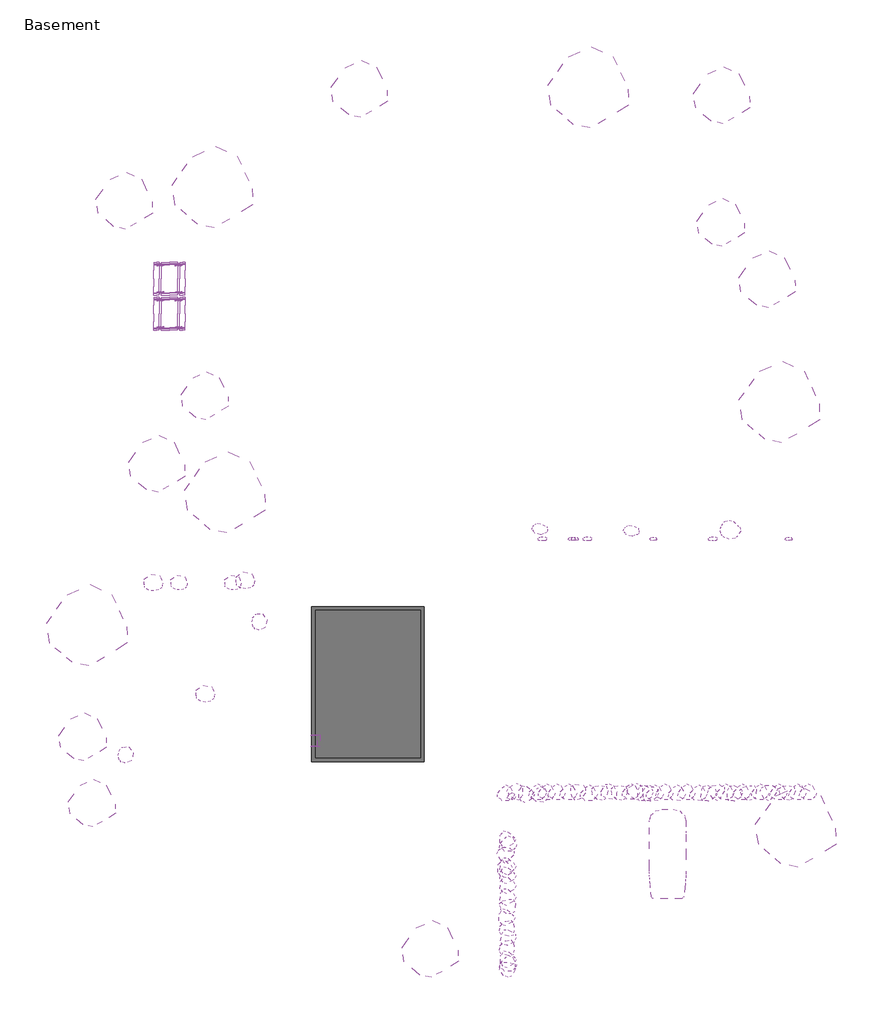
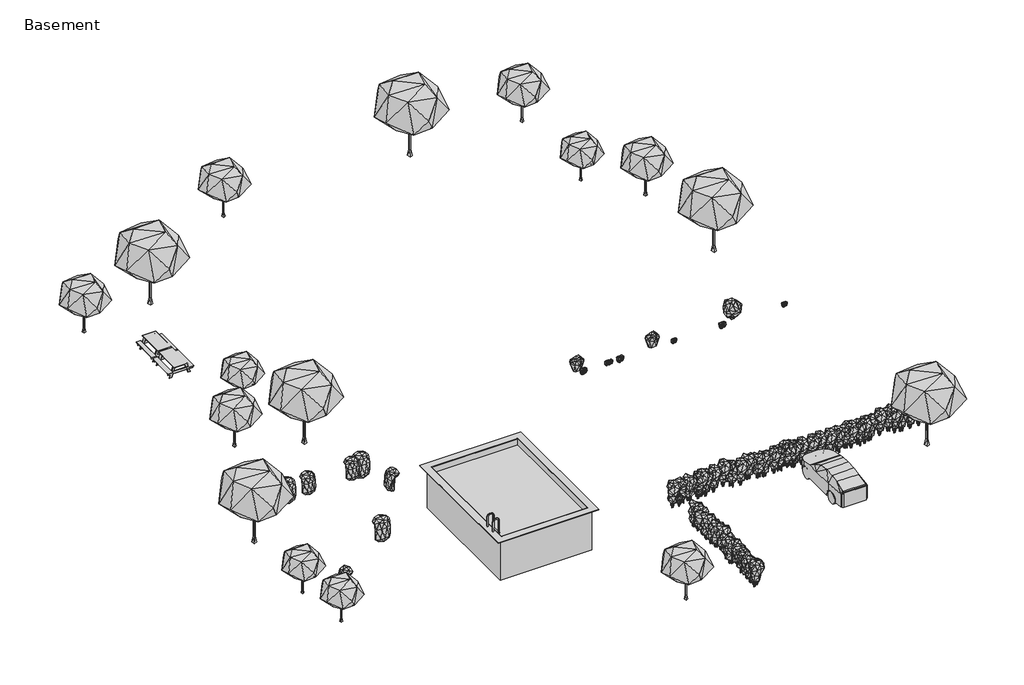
# One storey: 88 geographic elements, 1 proxy.
"""IFC4 building model written with IfcOpenShell, lengths in millimetres."""

from ifc_helpers import new_model, si_unit, origin, place, context, project, spatial, transform, mapped, element, save
from components import generic_models_12_generic_models_12_64fc7767, geographic_element_212cce61, geographic_element_7e77056d, geographic_element_bd739b93, geographic_element_0aab1bf5, geographic_element_827b0157, enscape_assetdefinition_bamboo_003_cane_group_enscape_e3d7d0c9, enscape_assetdefinition_bamboo_003_cane_group_enscape_a26ff348, enscape_assetdefinition_bush_025_fern_enscape_c4f5b710, enscape_assetdefinition_car_021_enscape_assetdefinition_car_290f43b4, enscape_assetdefinition_deciduous_tree_099_tree_enscape_4ca26ea1, enscape_assetdefinition_deciduous_tree_099_tree_enscape_438e4a8d, enscape_assetdefinition_deciduous_tree_099_tree_enscape_5098c912, enscape_assetdefinition_picnic_table_001_enscape_42751bdf, enscape_assetdefinition_pool_ladder_002_enscape_78e63e01

model = new_model("IFC4")

# Units and contexts
model_context = context("Model", 3, world=origin())
ifc_project = project(units=[si_unit("LENGTHUNIT", "METRE", prefix="MILLI")], contexts=[model_context])

# Site, building, storey
site = spatial("IfcSite", under=ifc_project)
building = spatial("IfcBuilding", under=site)
storey = spatial("IfcBuildingStorey", under=building, Name="Basement", Elevation=-2800.0)

# Proxy
placement = place(None, origin())
generic_models_12_generic_models_12_shape = generic_models_12_generic_models_12_64fc7767(model_context)
element("IfcBuildingElementProxy", 1, Name="Generic Models 12 : Generic Models 12", ObjectType="Generic Models 12 : Generic Models 12", at=placement, inside=storey, context=model_context, shape_type="MappedRepresentation", body=[
    mapped(generic_models_12_generic_models_12_shape, transform((0.0, 0.0, 0.0), x_axis=(1.0, 0.0, 0.0), y_axis=(0.0, 1.0, 0.0), z_axis=(0.0, 0.0, 1.0))),
])

# Geographic elements
geographic_element_shape = geographic_element_212cce61(model_context)
element("IfcGeographicElement", 2, ObjectType="Enscape AssetDefinition - Creeper Plant 001 Bower Vine : Enscape AssetDefinition - Creeper Plant 001 Bower Vine 2", at=placement, inside=storey, context=model_context, shape_type="MappedRepresentation", body=[
    mapped(geographic_element_shape, transform((685.5337784, -11698.4130328, 950.0), x_axis=(1.0, 0.0, 0.0), y_axis=(0.0, 1.0, 0.0), z_axis=(0.0, 0.0, 1.0))),
])
element("IfcGeographicElement", 3, ObjectType="Enscape AssetDefinition - Creeper Plant 001 Bower Vine : Enscape AssetDefinition - Creeper Plant 001 Bower Vine 2", at=placement, inside=storey, context=model_context, shape_type="MappedRepresentation", body=[
    mapped(geographic_element_shape, transform((2854.1061358, -5558.2564752, 950.0), x_axis=(1.0, 0.0, 0.0), y_axis=(0.0, 1.0, 0.0), z_axis=(0.0, 0.0, 1.0))),
])
element("IfcGeographicElement", 4, ObjectType="Enscape AssetDefinition - Creeper Plant 001 Bower Vine : Enscape AssetDefinition - Creeper Plant 001 Bower Vine 2", at=placement, inside=storey, context=model_context, shape_type="MappedRepresentation", body=[
    mapped(geographic_element_shape, transform((-2134.4662216, -5678.2564752, 950.0), x_axis=(1.0, 0.0, 0.0), y_axis=(0.0, 1.0, 0.0), z_axis=(0.0, 0.0, 1.0))),
])
geographic_element_2_shape = geographic_element_7e77056d(model_context)
element("IfcGeographicElement", 5, ObjectType="Enscape AssetDefinition - Creeper Plant 015 Bower Vine : Enscape AssetDefinition - Creeper Plant 015 Bower Vine 2", at=placement, inside=storey, context=model_context, shape_type="MappedRepresentation", body=[
    mapped(geographic_element_2_shape, transform((2182.6806272, -5678.2564752, 950.0), x_axis=(1.0, 0.0, 0.0), y_axis=(0.0, 1.0, 0.0), z_axis=(0.0, 0.0, 1.0))),
])
element("IfcGeographicElement", 6, ObjectType="Enscape AssetDefinition - Creeper Plant 015 Bower Vine : Enscape AssetDefinition - Creeper Plant 015 Bower Vine 2", at=placement, inside=storey, context=model_context, shape_type="MappedRepresentation", body=[
    mapped(geographic_element_2_shape, transform((-741.7932683, -5678.2564752, 950.0), x_axis=(1.0, 0.0, 0.0), y_axis=(0.0, 1.0, 0.0), z_axis=(0.0, 0.0, 1.0))),
])
element("IfcGeographicElement", 7, ObjectType="Enscape AssetDefinition - Creeper Plant 015 Bower Vine : Enscape AssetDefinition - Creeper Plant 015 Bower Vine 2", at=placement, inside=storey, context=model_context, shape_type="MappedRepresentation", body=[
    mapped(geographic_element_2_shape, transform((-3656.8662216, -15011.5231747, 950.0), x_axis=(0.0, -1.0, 0.0), y_axis=(1.0, 0.0, 0.0), z_axis=(0.0, 0.0, 1.0))),
])
element("IfcGeographicElement", 8, ObjectType="Enscape AssetDefinition - Creeper Plant 015 Bower Vine : Enscape AssetDefinition - Creeper Plant 015 Bower Vine 2", at=placement, inside=storey, context=model_context, shape_type="MappedRepresentation", body=[
    mapped(geographic_element_2_shape, transform((3593.1337784, -7798.2564752, 950.0), x_axis=(0.0, -1.0, 0.0), y_axis=(1.0, 0.0, 0.0), z_axis=(0.0, 0.0, 1.0))),
])
geographic_element_3_shape = geographic_element_bd739b93(model_context)
element("IfcGeographicElement", 9, ObjectType="Enscape AssetDefinition - Bush 132 Rose of Sharon : Enscape AssetDefinition - Bush 132 Rose of Sharon", at=placement, inside=storey, context=model_context, shape_type="MappedRepresentation", body=[
    mapped(geographic_element_3_shape, transform((29103.1337784, -2776.8168145, 0.0), x_axis=(1.0, 0.0, 0.0), y_axis=(0.0, 1.0, 0.0), z_axis=(0.0, 0.0, 1.0))),
])
geographic_element_4_shape = geographic_element_0aab1bf5(model_context)
element("IfcGeographicElement", 10, ObjectType="Enscape AssetDefinition - Creeper Plant 031 Bower Vine : Enscape AssetDefinition - Creeper Plant 031 Bower Vine 2", at=placement, inside=storey, context=model_context, shape_type="MappedRepresentation", body=[
    mapped(geographic_element_4_shape, transform((18948.1337784, -3306.9781298, 220.0), x_axis=(1.0, 0.0, 0.0), y_axis=(0.0, 1.0, 0.0), z_axis=(0.0, 0.0, 1.0))),
])
element("IfcGeographicElement", 11, ObjectType="Enscape AssetDefinition - Creeper Plant 031 Bower Vine : Enscape AssetDefinition - Creeper Plant 031 Bower Vine 2", at=placement, inside=storey, context=model_context, shape_type="MappedRepresentation", body=[
    mapped(geographic_element_4_shape, transform((21388.1337784, -3306.9781298, 220.0), x_axis=(1.0, 0.0, 0.0), y_axis=(0.0, 1.0, 0.0), z_axis=(0.0, 0.0, 1.0))),
])
element("IfcGeographicElement", 12, ObjectType="Enscape AssetDefinition - Creeper Plant 031 Bower Vine : Enscape AssetDefinition - Creeper Plant 031 Bower Vine 2", at=placement, inside=storey, context=model_context, shape_type="MappedRepresentation", body=[
    mapped(geographic_element_4_shape, transform((28188.1337784, -3306.9781298, 220.0), x_axis=(1.0, 0.0, 0.0), y_axis=(0.0, 1.0, 0.0), z_axis=(0.0, 0.0, 1.0))),
])
geographic_element_5_shape = geographic_element_827b0157(model_context)
element("IfcGeographicElement", 13, ObjectType="Enscape AssetDefinition - Creeper Plant 031 Bower Vine : Enscape AssetDefinition - Creeper Plant 031 Bower Vine 3", at=placement, inside=storey, context=model_context, shape_type="MappedRepresentation", body=[
    mapped(geographic_element_5_shape, transform((24968.1337784, -3306.9781298, 220.0), x_axis=(1.0, 0.0, 0.0), y_axis=(0.0, 1.0, 0.0), z_axis=(0.0, 0.0, 1.0))),
])
element("IfcGeographicElement", 14, ObjectType="Enscape AssetDefinition - Creeper Plant 031 Bower Vine : Enscape AssetDefinition - Creeper Plant 031 Bower Vine 3", at=placement, inside=storey, context=model_context, shape_type="MappedRepresentation", body=[
    mapped(geographic_element_5_shape, transform((32308.1337784, -3306.9781298, 220.0), x_axis=(1.0, 0.0, 0.0), y_axis=(0.0, 1.0, 0.0), z_axis=(0.0, 0.0, 1.0))),
])
element("IfcGeographicElement", 15, ObjectType="Enscape AssetDefinition - Creeper Plant 031 Bower Vine : Enscape AssetDefinition - Creeper Plant 031 Bower Vine 3", at=placement, inside=storey, context=model_context, shape_type="MappedRepresentation", body=[
    mapped(geographic_element_5_shape, transform((20548.1337784, -3306.9781298, 220.0), x_axis=(1.0, 0.0, 0.0), y_axis=(0.0, 1.0, 0.0), z_axis=(0.0, 0.0, 1.0))),
])
element("IfcGeographicElement", 16, ObjectType="Enscape AssetDefinition - Creeper Plant 031 Bower Vine : Enscape AssetDefinition - Creeper Plant 031 Bower Vine 3", at=placement, inside=storey, context=model_context, shape_type="MappedRepresentation", body=[
    mapped(geographic_element_5_shape, transform((20708.1337784, -3306.9781298, 220.0), x_axis=(1.0, 0.0, 0.0), y_axis=(0.0, 1.0, 0.0), z_axis=(0.0, 0.0, 1.0))),
])
enscape_assetdefinition_bamboo_003_cane_group_enscape_shape = enscape_assetdefinition_bamboo_003_cane_group_enscape_e3d7d0c9(model_context)
element("IfcGeographicElement", 17, ObjectType="Enscape AssetDefinition - Bamboo 003 Cane Group : Enscape AssetDefinition - Bamboo 003 Cane Group", at=placement, inside=storey, context=model_context, shape_type="MappedRepresentation", body=[
    mapped(enscape_assetdefinition_bamboo_003_cane_group_enscape_shape, transform((33282.8282298, -17059.8480259, -268.081106), x_axis=(1.0, 0.0, 0.0), y_axis=(0.0, 1.0, 0.0), z_axis=(0.0, 0.0, 1.0))),
])
element("IfcGeographicElement", 18, ObjectType="Enscape AssetDefinition - Bamboo 003 Cane Group : Enscape AssetDefinition - Bamboo 003 Cane Group", at=placement, inside=storey, context=model_context, shape_type="MappedRepresentation", body=[
    mapped(enscape_assetdefinition_bamboo_003_cane_group_enscape_shape, transform((31680.7576077, -17059.8480259, -209.1870688), x_axis=(1.0, 0.0, 0.0), y_axis=(0.0, 1.0, 0.0), z_axis=(0.0, 0.0, 1.0))),
])
element("IfcGeographicElement", 19, ObjectType="Enscape AssetDefinition - Bamboo 003 Cane Group : Enscape AssetDefinition - Bamboo 003 Cane Group", at=placement, inside=storey, context=model_context, shape_type="MappedRepresentation", body=[
    mapped(enscape_assetdefinition_bamboo_003_cane_group_enscape_shape, transform((31292.375186, -17001.6478489, -50.7387016), x_axis=(-1.0, 0.0, 0.0), y_axis=(0.0, -1.0, 0.0), z_axis=(0.0, 0.0, 1.0))),
])
element("IfcGeographicElement", 20, ObjectType="Enscape AssetDefinition - Bamboo 003 Cane Group : Enscape AssetDefinition - Bamboo 003 Cane Group", at=placement, inside=storey, context=model_context, shape_type="MappedRepresentation", body=[
    mapped(enscape_assetdefinition_bamboo_003_cane_group_enscape_shape, transform((30686.0291039, -17059.8480259, -50.7387016), x_axis=(1.0, 0.0, 0.0), y_axis=(0.0, 1.0, 0.0), z_axis=(0.0, 0.0, 1.0))),
])
element("IfcGeographicElement", 21, ObjectType="Enscape AssetDefinition - Bamboo 003 Cane Group : Enscape AssetDefinition - Bamboo 003 Cane Group", at=placement, inside=storey, context=model_context, shape_type="MappedRepresentation", body=[
    mapped(enscape_assetdefinition_bamboo_003_cane_group_enscape_shape, transform((32708.9263914, -17059.8480259, -261.7786402), x_axis=(1.0, 0.0, 0.0), y_axis=(0.0, 1.0, 0.0), z_axis=(0.0, 0.0, 1.0))),
])
element("IfcGeographicElement", 22, ObjectType="Enscape AssetDefinition - Bamboo 003 Cane Group : Enscape AssetDefinition - Bamboo 003 Cane Group", at=placement, inside=storey, context=model_context, shape_type="MappedRepresentation", body=[
    mapped(enscape_assetdefinition_bamboo_003_cane_group_enscape_shape, transform((32171.3733154, -16993.0747976, -355.46213), x_axis=(0.7071067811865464, -0.7071067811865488, 0.0), y_axis=(0.7071067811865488, 0.7071067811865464, 0.0), z_axis=(0.0, 0.0, 1.0))),
])
element("IfcGeographicElement", 23, ObjectType="Enscape AssetDefinition - Bamboo 003 Cane Group : Enscape AssetDefinition - Bamboo 003 Cane Group", at=placement, inside=storey, context=model_context, shape_type="MappedRepresentation", body=[
    mapped(enscape_assetdefinition_bamboo_003_cane_group_enscape_shape, transform((29688.9263914, -17059.8480259, -261.7786402), x_axis=(1.0, 0.0, 0.0), y_axis=(0.0, 1.0, 0.0), z_axis=(0.0, 0.0, 1.0))),
])
element("IfcGeographicElement", 24, ObjectType="Enscape AssetDefinition - Bamboo 003 Cane Group : Enscape AssetDefinition - Bamboo 003 Cane Group", at=placement, inside=storey, context=model_context, shape_type="MappedRepresentation", body=[
    mapped(enscape_assetdefinition_bamboo_003_cane_group_enscape_shape, transform((29298.9655663, -17139.7336169, -261.7786402), x_axis=(0.8290375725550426, 0.5591929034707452, 0.0), y_axis=(-0.5591929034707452, 0.8290375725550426, 0.0), z_axis=(0.0, 0.0, 1.0))),
])
element("IfcGeographicElement", 25, ObjectType="Enscape AssetDefinition - Bamboo 003 Cane Group : Enscape AssetDefinition - Bamboo 003 Cane Group", at=placement, inside=storey, context=model_context, shape_type="MappedRepresentation", body=[
    mapped(enscape_assetdefinition_bamboo_003_cane_group_enscape_shape, transform((28457.2789, -16975.5998121, -261.7786402), x_axis=(-0.9876883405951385, -0.15643446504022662, 0.0), y_axis=(0.15643446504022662, -0.9876883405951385, 0.0), z_axis=(0.0, 0.0, 1.0))),
])
element("IfcGeographicElement", 26, ObjectType="Enscape AssetDefinition - Bamboo 003 Cane Group : Enscape AssetDefinition - Bamboo 003 Cane Group", at=placement, inside=storey, context=model_context, shape_type="MappedRepresentation", body=[
    mapped(enscape_assetdefinition_bamboo_003_cane_group_enscape_shape, transform((27331.8039453, -17112.4968757, -261.7786402), x_axis=(1.0, 0.0, 0.0), y_axis=(0.0, 1.0, 0.0), z_axis=(0.0, 0.0, 1.0))),
])
element("IfcGeographicElement", 27, ObjectType="Enscape AssetDefinition - Bamboo 003 Cane Group : Enscape AssetDefinition - Bamboo 003 Cane Group", at=placement, inside=storey, context=model_context, shape_type="MappedRepresentation", body=[
    mapped(enscape_assetdefinition_bamboo_003_cane_group_enscape_shape, transform((26171.8039453, -17112.4968757, -261.7786402), x_axis=(1.0, 0.0, 0.0), y_axis=(0.0, 1.0, 0.0), z_axis=(0.0, 0.0, 1.0))),
])
element("IfcGeographicElement", 28, ObjectType="Enscape AssetDefinition - Bamboo 003 Cane Group : Enscape AssetDefinition - Bamboo 003 Cane Group", at=placement, inside=storey, context=model_context, shape_type="MappedRepresentation", body=[
    mapped(enscape_assetdefinition_bamboo_003_cane_group_enscape_shape, transform((24971.8039453, -17112.4968757, -261.7786402), x_axis=(1.0, 0.0, 0.0), y_axis=(0.0, 1.0, 0.0), z_axis=(0.0, 0.0, 1.0))),
])
element("IfcGeographicElement", 29, ObjectType="Enscape AssetDefinition - Bamboo 003 Cane Group : Enscape AssetDefinition - Bamboo 003 Cane Group", at=placement, inside=storey, context=model_context, shape_type="MappedRepresentation", body=[
    mapped(enscape_assetdefinition_bamboo_003_cane_group_enscape_shape, transform((23673.5855501, -17044.4601326, -261.7786402), x_axis=(1.0, 0.0, 0.0), y_axis=(0.0, 1.0, 0.0), z_axis=(0.0, 0.0, 1.0))),
])
element("IfcGeographicElement", 30, ObjectType="Enscape AssetDefinition - Bamboo 003 Cane Group : Enscape AssetDefinition - Bamboo 003 Cane Group", at=placement, inside=storey, context=model_context, shape_type="MappedRepresentation", body=[
    mapped(enscape_assetdefinition_bamboo_003_cane_group_enscape_shape, transform((21396.9283537, -17118.4834862, -261.7786402), x_axis=(1.0, 0.0, 0.0), y_axis=(0.0, 1.0, 0.0), z_axis=(0.0, 0.0, 1.0))),
])
element("IfcGeographicElement", 31, ObjectType="Enscape AssetDefinition - Bamboo 003 Cane Group : Enscape AssetDefinition - Bamboo 003 Cane Group", at=placement, inside=storey, context=model_context, shape_type="MappedRepresentation", body=[
    mapped(enscape_assetdefinition_bamboo_003_cane_group_enscape_shape, transform((20833.7985572, -17059.8480259, -261.7786402), x_axis=(0.6018150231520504, 0.7986355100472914, 0.0), y_axis=(-0.7986355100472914, 0.6018150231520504, 0.0), z_axis=(0.0, 0.0, 1.0))),
])
element("IfcGeographicElement", 32, ObjectType="Enscape AssetDefinition - Bamboo 003 Cane Group : Enscape AssetDefinition - Bamboo 003 Cane Group", at=placement, inside=storey, context=model_context, shape_type="MappedRepresentation", body=[
    mapped(enscape_assetdefinition_bamboo_003_cane_group_enscape_shape, transform((20293.1337784, -17059.8480259, 0.0), x_axis=(1.0, 0.0, 0.0), y_axis=(0.0, 1.0, 0.0), z_axis=(0.0, 0.0, 1.0))),
])
element("IfcGeographicElement", 33, ObjectType="Enscape AssetDefinition - Bamboo 003 Cane Group : Enscape AssetDefinition - Bamboo 003 Cane Group", at=placement, inside=storey, context=model_context, shape_type="MappedRepresentation", body=[
    mapped(enscape_assetdefinition_bamboo_003_cane_group_enscape_shape, transform((19653.1337784, -17059.8480259, -172.0395258), x_axis=(1.0, 0.0, 0.0), y_axis=(0.0, 1.0, 0.0), z_axis=(0.0, 0.0, 1.0))),
])
element("IfcGeographicElement", 34, ObjectType="Enscape AssetDefinition - Bamboo 003 Cane Group : Enscape AssetDefinition - Bamboo 003 Cane Group", at=placement, inside=storey, context=model_context, shape_type="MappedRepresentation", body=[
    mapped(enscape_assetdefinition_bamboo_003_cane_group_enscape_shape, transform((16895.4241879, -17118.4834862, -261.7786402), x_axis=(1.0, 0.0, 0.0), y_axis=(0.0, 1.0, 0.0), z_axis=(0.0, 0.0, 1.0))),
])
element("IfcGeographicElement", 35, ObjectType="Enscape AssetDefinition - Bamboo 003 Cane Group : Enscape AssetDefinition - Bamboo 003 Cane Group", at=placement, inside=storey, context=model_context, shape_type="MappedRepresentation", body=[
    mapped(enscape_assetdefinition_bamboo_003_cane_group_enscape_shape, transform((18757.0941135, -17192.078512, -81.628826), x_axis=(1.0, 0.0, 0.0), y_axis=(0.0, 1.0, 0.0), z_axis=(0.0, 0.0, 1.0))),
])
element("IfcGeographicElement", 36, ObjectType="Enscape AssetDefinition - Bamboo 003 Cane Group : Enscape AssetDefinition - Bamboo 003 Cane Group", at=placement, inside=storey, context=model_context, shape_type="MappedRepresentation", body=[
    mapped(enscape_assetdefinition_bamboo_003_cane_group_enscape_shape, transform((30077.9142827, -17007.6759344, -268.081106), x_axis=(0.809016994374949, -0.5877852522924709, 0.0), y_axis=(0.5877852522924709, 0.809016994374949, 0.0), z_axis=(0.0, 0.0, 1.0))),
])
element("IfcGeographicElement", 37, ObjectType="Enscape AssetDefinition - Bamboo 003 Cane Group : Enscape AssetDefinition - Bamboo 003 Cane Group", at=placement, inside=storey, context=model_context, shape_type="MappedRepresentation", body=[
    mapped(enscape_assetdefinition_bamboo_003_cane_group_enscape_shape, transform((28802.2344827, -17059.8480259, -268.081106), x_axis=(1.0, 0.0, 0.0), y_axis=(0.0, 1.0, 0.0), z_axis=(0.0, 0.0, 1.0))),
])
element("IfcGeographicElement", 38, ObjectType="Enscape AssetDefinition - Bamboo 003 Cane Group : Enscape AssetDefinition - Bamboo 003 Cane Group", at=placement, inside=storey, context=model_context, shape_type="MappedRepresentation", body=[
    mapped(enscape_assetdefinition_bamboo_003_cane_group_enscape_shape, transform((25502.2344827, -17059.8480259, -268.081106), x_axis=(1.0, 0.0, 0.0), y_axis=(0.0, 1.0, 0.0), z_axis=(0.0, 0.0, 1.0))),
])
element("IfcGeographicElement", 39, ObjectType="Enscape AssetDefinition - Bamboo 003 Cane Group : Enscape AssetDefinition - Bamboo 003 Cane Group", at=placement, inside=storey, context=model_context, shape_type="MappedRepresentation", body=[
    mapped(enscape_assetdefinition_bamboo_003_cane_group_enscape_shape, transform((26702.2344827, -17059.8480259, -268.081106), x_axis=(1.0, 0.0, 0.0), y_axis=(0.0, 1.0, 0.0), z_axis=(0.0, 0.0, 1.0))),
])
element("IfcGeographicElement", 40, ObjectType="Enscape AssetDefinition - Bamboo 003 Cane Group : Enscape AssetDefinition - Bamboo 003 Cane Group", at=placement, inside=storey, context=model_context, shape_type="MappedRepresentation", body=[
    mapped(enscape_assetdefinition_bamboo_003_cane_group_enscape_shape, transform((17514.9251972, -17059.8480259, -268.081106), x_axis=(0.0, 1.0, 0.0), y_axis=(-1.0, 0.0, 0.0), z_axis=(0.0, 0.0, 1.0))),
])
element("IfcGeographicElement", 41, ObjectType="Enscape AssetDefinition - Bamboo 003 Cane Group : Enscape AssetDefinition - Bamboo 003 Cane Group", at=placement, inside=storey, context=model_context, shape_type="MappedRepresentation", body=[
    mapped(enscape_assetdefinition_bamboo_003_cane_group_enscape_shape, transform((18031.2049435, -17059.8480259, -268.081106), x_axis=(0.0, -1.0, 0.0), y_axis=(1.0, 0.0, 0.0), z_axis=(0.0, 0.0, 1.0))),
])
element("IfcGeographicElement", 42, ObjectType="Enscape AssetDefinition - Bamboo 003 Cane Group : Enscape AssetDefinition - Bamboo 003 Cane Group", at=placement, inside=storey, context=model_context, shape_type="MappedRepresentation", body=[
    mapped(enscape_assetdefinition_bamboo_003_cane_group_enscape_shape, transform((18614.9251972, -17059.8480259, -268.081106), x_axis=(1.0, 0.0, 0.0), y_axis=(0.0, 1.0, 0.0), z_axis=(0.0, 0.0, 1.0))),
])
element("IfcGeographicElement", 43, ObjectType="Enscape AssetDefinition - Bamboo 003 Cane Group : Enscape AssetDefinition - Bamboo 003 Cane Group", at=placement, inside=storey, context=model_context, shape_type="MappedRepresentation", body=[
    mapped(enscape_assetdefinition_bamboo_003_cane_group_enscape_shape, transform((19114.9251972, -17059.8480259, -268.081106), x_axis=(1.0, 0.0, 0.0), y_axis=(0.0, 1.0, 0.0), z_axis=(0.0, 0.0, 1.0))),
])
element("IfcGeographicElement", 44, ObjectType="Enscape AssetDefinition - Bamboo 003 Cane Group : Enscape AssetDefinition - Bamboo 003 Cane Group", at=placement, inside=storey, context=model_context, shape_type="MappedRepresentation", body=[
    mapped(enscape_assetdefinition_bamboo_003_cane_group_enscape_shape, transform((22611.7596897, -17059.8480259, -268.081106), x_axis=(-0.4999999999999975, 0.8660254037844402, 0.0), y_axis=(-0.8660254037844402, -0.4999999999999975, 0.0), z_axis=(0.0, 0.0, 1.0))),
])
element("IfcGeographicElement", 45, ObjectType="Enscape AssetDefinition - Bamboo 003 Cane Group : Enscape AssetDefinition - Bamboo 003 Cane Group", at=placement, inside=storey, context=model_context, shape_type="MappedRepresentation", body=[
    mapped(enscape_assetdefinition_bamboo_003_cane_group_enscape_shape, transform((24014.9251972, -17059.8480259, -268.081106), x_axis=(0.0, 1.0, 0.0), y_axis=(-1.0, 0.0, 0.0), z_axis=(0.0, 0.0, 1.0))),
])
element("IfcGeographicElement", 46, ObjectType="Enscape AssetDefinition - Bamboo 003 Cane Group : Enscape AssetDefinition - Bamboo 003 Cane Group", at=placement, inside=storey, context=model_context, shape_type="MappedRepresentation", body=[
    mapped(enscape_assetdefinition_bamboo_003_cane_group_enscape_shape, transform((27878.9655663, -17139.7336169, -261.7786402), x_axis=(0.8290375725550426, 0.5591929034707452, 0.0), y_axis=(-0.5591929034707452, 0.8290375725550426, 0.0), z_axis=(0.0, 0.0, 1.0))),
])
element("IfcGeographicElement", 47, ObjectType="Enscape AssetDefinition - Bamboo 003 Cane Group : Enscape AssetDefinition - Bamboo 003 Cane Group", at=placement, inside=storey, context=model_context, shape_type="MappedRepresentation", body=[
    mapped(enscape_assetdefinition_bamboo_003_cane_group_enscape_shape, transform((24743.1337784, -17139.7336169, -152.4090945), x_axis=(0.8290375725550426, 0.5591929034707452, 0.0), y_axis=(-0.5591929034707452, 0.8290375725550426, 0.0), z_axis=(0.0, 0.0, 1.0))),
])
element("IfcGeographicElement", 48, ObjectType="Enscape AssetDefinition - Bamboo 003 Cane Group : Enscape AssetDefinition - Bamboo 003 Cane Group", at=placement, inside=storey, context=model_context, shape_type="MappedRepresentation", body=[
    mapped(enscape_assetdefinition_bamboo_003_cane_group_enscape_shape, transform((24447.670953, -17128.1491789, -81.628826), x_axis=(0.8290375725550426, 0.5591929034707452, 0.0), y_axis=(-0.5591929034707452, 0.8290375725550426, 0.0), z_axis=(0.0, 0.0, 1.0))),
])
element("IfcGeographicElement", 49, ObjectType="Enscape AssetDefinition - Bamboo 003 Cane Group : Enscape AssetDefinition - Bamboo 003 Cane Group", at=placement, inside=storey, context=model_context, shape_type="MappedRepresentation", body=[
    mapped(enscape_assetdefinition_bamboo_003_cane_group_enscape_shape, transform((23071.3733154, -16993.0747976, -355.46213), x_axis=(0.7071067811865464, -0.7071067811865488, 0.0), y_axis=(0.7071067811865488, 0.7071067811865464, 0.0), z_axis=(0.0, 0.0, 1.0))),
])
element("IfcGeographicElement", 50, ObjectType="Enscape AssetDefinition - Bamboo 003 Cane Group : Enscape AssetDefinition - Bamboo 003 Cane Group", at=placement, inside=storey, context=model_context, shape_type="MappedRepresentation", body=[
    mapped(enscape_assetdefinition_bamboo_003_cane_group_enscape_shape, transform((22014.2661283, -16993.0747976, -175.3123159), x_axis=(0.7071067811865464, -0.7071067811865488, 0.0), y_axis=(0.7071067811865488, 0.7071067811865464, 0.0), z_axis=(0.0, 0.0, 1.0))),
])
element("IfcGeographicElement", 51, ObjectType="Enscape AssetDefinition - Bamboo 003 Cane Group : Enscape AssetDefinition - Bamboo 003 Cane Group", at=placement, inside=storey, context=model_context, shape_type="MappedRepresentation", body=[
    mapped(enscape_assetdefinition_bamboo_003_cane_group_enscape_shape, transform((17037.8427147, -26016.5399051, -261.7786402), x_axis=(0.0, -1.0, 0.0), y_axis=(1.0, 0.0, 0.0), z_axis=(0.0, 0.0, 1.0))),
])
element("IfcGeographicElement", 52, ObjectType="Enscape AssetDefinition - Bamboo 003 Cane Group : Enscape AssetDefinition - Bamboo 003 Cane Group", at=placement, inside=storey, context=model_context, shape_type="MappedRepresentation", body=[
    mapped(enscape_assetdefinition_bamboo_003_cane_group_enscape_shape, transform((16963.8193612, -23739.8827087, -261.7786402), x_axis=(0.0, -1.0, 0.0), y_axis=(1.0, 0.0, 0.0), z_axis=(0.0, 0.0, 1.0))),
])
element("IfcGeographicElement", 53, ObjectType="Enscape AssetDefinition - Bamboo 003 Cane Group : Enscape AssetDefinition - Bamboo 003 Cane Group", at=placement, inside=storey, context=model_context, shape_type="MappedRepresentation", body=[
    mapped(enscape_assetdefinition_bamboo_003_cane_group_enscape_shape, transform((17022.4548215, -23176.7529122, -261.7786402), x_axis=(0.7986355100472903, -0.6018150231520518, 0.0), y_axis=(0.6018150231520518, 0.7986355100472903, 0.0), z_axis=(0.0, 0.0, 1.0))),
])
element("IfcGeographicElement", 54, ObjectType="Enscape AssetDefinition - Bamboo 003 Cane Group : Enscape AssetDefinition - Bamboo 003 Cane Group", at=placement, inside=storey, context=model_context, shape_type="MappedRepresentation", body=[
    mapped(enscape_assetdefinition_bamboo_003_cane_group_enscape_shape, transform((17022.4548215, -22636.0881333, 0.0), x_axis=(0.0, -1.0, 0.0), y_axis=(1.0, 0.0, 0.0), z_axis=(0.0, 0.0, 1.0))),
])
element("IfcGeographicElement", 55, ObjectType="Enscape AssetDefinition - Bamboo 003 Cane Group : Enscape AssetDefinition - Bamboo 003 Cane Group", at=placement, inside=storey, context=model_context, shape_type="MappedRepresentation", body=[
    mapped(enscape_assetdefinition_bamboo_003_cane_group_enscape_shape, transform((17022.4548215, -21996.0881333, -172.0395258), x_axis=(0.0, -1.0, 0.0), y_axis=(1.0, 0.0, 0.0), z_axis=(0.0, 0.0, 1.0))),
])
element("IfcGeographicElement", 56, ObjectType="Enscape AssetDefinition - Bamboo 003 Cane Group : Enscape AssetDefinition - Bamboo 003 Cane Group", at=placement, inside=storey, context=model_context, shape_type="MappedRepresentation", body=[
    mapped(enscape_assetdefinition_bamboo_003_cane_group_enscape_shape, transform((17006.5159001, -19508.789956, -261.7786402), x_axis=(0.0, -1.0, 0.0), y_axis=(1.0, 0.0, 0.0), z_axis=(0.0, 0.0, 1.0))),
])
element("IfcGeographicElement", 57, ObjectType="Enscape AssetDefinition - Bamboo 003 Cane Group : Enscape AssetDefinition - Bamboo 003 Cane Group", at=placement, inside=storey, context=model_context, shape_type="MappedRepresentation", body=[
    mapped(enscape_assetdefinition_bamboo_003_cane_group_enscape_shape, transform((16890.2243354, -21100.0484685, -81.628826), x_axis=(0.0, -1.0, 0.0), y_axis=(1.0, 0.0, 0.0), z_axis=(0.0, 0.0, 1.0))),
])
element("IfcGeographicElement", 58, ObjectType="Enscape AssetDefinition - Bamboo 003 Cane Group : Enscape AssetDefinition - Bamboo 003 Cane Group", at=placement, inside=storey, context=model_context, shape_type="MappedRepresentation", body=[
    mapped(enscape_assetdefinition_bamboo_003_cane_group_enscape_shape, transform((17022.4548215, -19857.8795522, -268.081106), x_axis=(1.0, 0.0, 0.0), y_axis=(0.0, 1.0, 0.0), z_axis=(0.0, 0.0, 1.0))),
])
element("IfcGeographicElement", 59, ObjectType="Enscape AssetDefinition - Bamboo 003 Cane Group : Enscape AssetDefinition - Bamboo 003 Cane Group", at=placement, inside=storey, context=model_context, shape_type="MappedRepresentation", body=[
    mapped(enscape_assetdefinition_bamboo_003_cane_group_enscape_shape, transform((17022.4548215, -20374.1592985, -268.081106), x_axis=(-1.0, 0.0, 0.0), y_axis=(0.0, -1.0, 0.0), z_axis=(0.0, 0.0, 1.0))),
])
element("IfcGeographicElement", 60, ObjectType="Enscape AssetDefinition - Bamboo 003 Cane Group : Enscape AssetDefinition - Bamboo 003 Cane Group", at=placement, inside=storey, context=model_context, shape_type="MappedRepresentation", body=[
    mapped(enscape_assetdefinition_bamboo_003_cane_group_enscape_shape, transform((17022.4548215, -20957.8795522, -268.081106), x_axis=(0.0, -1.0, 0.0), y_axis=(1.0, 0.0, 0.0), z_axis=(0.0, 0.0, 1.0))),
])
element("IfcGeographicElement", 61, ObjectType="Enscape AssetDefinition - Bamboo 003 Cane Group : Enscape AssetDefinition - Bamboo 003 Cane Group", at=placement, inside=storey, context=model_context, shape_type="MappedRepresentation", body=[
    mapped(enscape_assetdefinition_bamboo_003_cane_group_enscape_shape, transform((17022.4548215, -21457.8795522, -268.081106), x_axis=(0.0, -1.0, 0.0), y_axis=(1.0, 0.0, 0.0), z_axis=(0.0, 0.0, 1.0))),
])
element("IfcGeographicElement", 62, ObjectType="Enscape AssetDefinition - Bamboo 003 Cane Group : Enscape AssetDefinition - Bamboo 003 Cane Group", at=placement, inside=storey, context=model_context, shape_type="MappedRepresentation", body=[
    mapped(enscape_assetdefinition_bamboo_003_cane_group_enscape_shape, transform((17022.4548215, -24954.7140447, -268.081106), x_axis=(0.866025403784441, 0.49999999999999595, 0.0), y_axis=(-0.49999999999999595, 0.866025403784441, 0.0), z_axis=(0.0, 0.0, 1.0))),
])
element("IfcGeographicElement", 63, ObjectType="Enscape AssetDefinition - Bamboo 003 Cane Group : Enscape AssetDefinition - Bamboo 003 Cane Group", at=placement, inside=storey, context=model_context, shape_type="MappedRepresentation", body=[
    mapped(enscape_assetdefinition_bamboo_003_cane_group_enscape_shape, transform((17022.4548215, -26357.8795522, -268.081106), x_axis=(1.0, 0.0, 0.0), y_axis=(0.0, 1.0, 0.0), z_axis=(0.0, 0.0, 1.0))),
])
element("IfcGeographicElement", 64, ObjectType="Enscape AssetDefinition - Bamboo 003 Cane Group : Enscape AssetDefinition - Bamboo 003 Cane Group", at=placement, inside=storey, context=model_context, shape_type="MappedRepresentation", body=[
    mapped(enscape_assetdefinition_bamboo_003_cane_group_enscape_shape, transform((17002.3013987, -26552.0930066, -81.628826), x_axis=(0.5591929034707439, -0.8290375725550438, 0.0), y_axis=(0.8290375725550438, 0.5591929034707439, 0.0), z_axis=(0.0, 0.0, 1.0))),
])
element("IfcGeographicElement", 65, ObjectType="Enscape AssetDefinition - Bamboo 003 Cane Group : Enscape AssetDefinition - Bamboo 003 Cane Group", at=placement, inside=storey, context=model_context, shape_type="MappedRepresentation", body=[
    mapped(enscape_assetdefinition_bamboo_003_cane_group_enscape_shape, transform((17089.2280498, -25414.3276704, -355.46213), x_axis=(-0.70710678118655, -0.7071067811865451, 0.0), y_axis=(0.7071067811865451, -0.70710678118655, 0.0), z_axis=(0.0, 0.0, 1.0))),
])
element("IfcGeographicElement", 66, ObjectType="Enscape AssetDefinition - Bamboo 003 Cane Group : Enscape AssetDefinition - Bamboo 003 Cane Group", at=placement, inside=storey, context=model_context, shape_type="MappedRepresentation", body=[
    mapped(enscape_assetdefinition_bamboo_003_cane_group_enscape_shape, transform((17089.2280498, -24357.2204833, -175.3123159), x_axis=(-0.70710678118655, -0.7071067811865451, 0.0), y_axis=(0.7071067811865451, -0.70710678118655, 0.0), z_axis=(0.0, 0.0, 1.0))),
])
enscape_assetdefinition_bamboo_003_cane_group_enscape_2_shape = enscape_assetdefinition_bamboo_003_cane_group_enscape_a26ff348(model_context)
element("IfcGeographicElement", 67, ObjectType="Enscape AssetDefinition - Bamboo 003 Cane Group : Enscape AssetDefinition - Bamboo 003 Cane Group 2", at=placement, inside=storey, context=model_context, shape_type="MappedRepresentation", body=[
    mapped(enscape_assetdefinition_bamboo_003_cane_group_enscape_2_shape, transform((17243.1337784, -17266.9555254, -261.7786402), x_axis=(1.0, 0.0, 0.0), y_axis=(0.0, 1.0, 0.0), z_axis=(0.0, 0.0, 1.0))),
])
enscape_assetdefinition_bush_025_fern_enscape_shape = enscape_assetdefinition_bush_025_fern_enscape_c4f5b710(model_context)
element("IfcGeographicElement", 68, ObjectType="Enscape AssetDefinition - Bush 025 Fern : Enscape AssetDefinition - Bush 025 Fern 4", at=placement, inside=storey, context=model_context, shape_type="MappedRepresentation", body=[
    mapped(enscape_assetdefinition_bush_025_fern_enscape_shape, transform((23800.0326463, -2868.8158431, -57.9666223), x_axis=(1.0, 0.0, 0.0), y_axis=(0.0, 1.0, 0.0), z_axis=(0.0, 0.0, 1.0))),
])
element("IfcGeographicElement", 69, ObjectType="Enscape AssetDefinition - Bush 025 Fern : Enscape AssetDefinition - Bush 025 Fern 4", at=placement, inside=storey, context=model_context, shape_type="MappedRepresentation", body=[
    mapped(enscape_assetdefinition_bush_025_fern_enscape_shape, transform((18840.8958615, -2776.8168145, -56.8459276), x_axis=(1.0, 0.0, 0.0), y_axis=(0.0, 1.0, 0.0), z_axis=(0.0, 0.0, 1.0))),
])
enscape_assetdefinition_car_021_enscape_assetdefinition_car_shape = enscape_assetdefinition_car_021_enscape_assetdefinition_car_290f43b4(model_context)
element("IfcGeographicElement", 70, ObjectType="Enscape AssetDefinition - Car 021 : Enscape AssetDefinition - Car 021", at=placement, inside=storey, context=model_context, shape_type="MappedRepresentation", body=[
    mapped(enscape_assetdefinition_car_021_enscape_assetdefinition_car_shape, transform((25742.6806272, -20409.384332, 0.0), x_axis=(1.0, 0.0, 0.0), y_axis=(0.0, 1.0, 0.0), z_axis=(0.0, 0.0, 1.0))),
])
enscape_assetdefinition_deciduous_tree_099_tree_enscape_shape = enscape_assetdefinition_deciduous_tree_099_tree_enscape_4ca26ea1(model_context)
element("IfcGeographicElement", 71, ObjectType="Enscape AssetDefinition - Deciduous Tree 099 Tree : Enscape AssetDefinition - Deciduous Tree 099 Tree", at=placement, inside=storey, context=model_context, shape_type="MappedRepresentation", body=[
    mapped(enscape_assetdefinition_deciduous_tree_099_tree_enscape_shape, transform((-5478.1994675, -17705.5725644, 0.0), x_axis=(1.0, 0.0, 0.0), y_axis=(0.0, 1.0, 0.0), z_axis=(0.0, 0.0, 1.0))),
])
element("IfcGeographicElement", 72, ObjectType="Enscape AssetDefinition - Deciduous Tree 099 Tree : Enscape AssetDefinition - Deciduous Tree 099 Tree", at=placement, inside=storey, context=model_context, shape_type="MappedRepresentation", body=[
    mapped(enscape_assetdefinition_deciduous_tree_099_tree_enscape_shape, transform((28629.7525619, 13761.715447, 0.0), x_axis=(1.0, 0.0, 0.0), y_axis=(0.0, 1.0, 0.0), z_axis=(0.0, 0.0, 1.0))),
])
element("IfcGeographicElement", 73, ObjectType="Enscape AssetDefinition - Deciduous Tree 099 Tree : Enscape AssetDefinition - Deciduous Tree 099 Tree", at=placement, inside=storey, context=model_context, shape_type="MappedRepresentation", body=[
    mapped(enscape_assetdefinition_deciduous_tree_099_tree_enscape_shape, transform((643.1337784, 4366.9206658, 0.0), x_axis=(1.0, 0.0, 0.0), y_axis=(0.0, 1.0, 0.0), z_axis=(0.0, 0.0, 1.0))),
])
element("IfcGeographicElement", 74, ObjectType="Enscape AssetDefinition - Deciduous Tree 099 Tree : Enscape AssetDefinition - Deciduous Tree 099 Tree", at=placement, inside=storey, context=model_context, shape_type="MappedRepresentation", body=[
    mapped(enscape_assetdefinition_deciduous_tree_099_tree_enscape_shape, transform((-5974.2859569, -14119.3926801, 0.0), x_axis=(1.0, 0.0, 0.0), y_axis=(0.0, 1.0, 0.0), z_axis=(0.0, 0.0, 1.0))),
])
enscape_assetdefinition_deciduous_tree_099_tree_enscape_2_shape = enscape_assetdefinition_deciduous_tree_099_tree_enscape_438e4a8d(model_context)
element("IfcGeographicElement", 75, ObjectType="Enscape AssetDefinition - Deciduous Tree 099 Tree : Enscape AssetDefinition - Deciduous Tree 099 Tree 2", at=placement, inside=storey, context=model_context, shape_type="MappedRepresentation", body=[
    mapped(enscape_assetdefinition_deciduous_tree_099_tree_enscape_2_shape, transform((-1956.8662216, 666.9206658, 0.0), x_axis=(1.0, 0.0, 0.0), y_axis=(0.0, 1.0, 0.0), z_axis=(0.0, 0.0, 1.0))),
])
element("IfcGeographicElement", 76, ObjectType="Enscape AssetDefinition - Deciduous Tree 099 Tree : Enscape AssetDefinition - Deciduous Tree 099 Tree 2", at=placement, inside=storey, context=model_context, shape_type="MappedRepresentation", body=[
    mapped(enscape_assetdefinition_deciduous_tree_099_tree_enscape_2_shape, transform((-3722.884216, 14924.7849926, 0.0), x_axis=(1.0, 0.0, 0.0), y_axis=(0.0, 1.0, 0.0), z_axis=(0.0, 0.0, 1.0))),
])
element("IfcGeographicElement", 77, ObjectType="Enscape AssetDefinition - Deciduous Tree 099 Tree : Enscape AssetDefinition - Deciduous Tree 099 Tree 2", at=placement, inside=storey, context=model_context, shape_type="MappedRepresentation", body=[
    mapped(enscape_assetdefinition_deciduous_tree_099_tree_enscape_2_shape, transform((12865.5337784, -25633.0793342, 0.0), x_axis=(1.0, 0.0, 0.0), y_axis=(0.0, 1.0, 0.0), z_axis=(0.0, 0.0, 1.0))),
])
element("IfcGeographicElement", 78, ObjectType="Enscape AssetDefinition - Deciduous Tree 099 Tree : Enscape AssetDefinition - Deciduous Tree 099 Tree 2", at=placement, inside=storey, context=model_context, shape_type="MappedRepresentation", body=[
    mapped(enscape_assetdefinition_deciduous_tree_099_tree_enscape_2_shape, transform((28677.2908581, 20637.8100379, 0.0), x_axis=(1.0, 0.0, 0.0), y_axis=(0.0, 1.0, 0.0), z_axis=(0.0, 0.0, 1.0))),
])
element("IfcGeographicElement", 79, ObjectType="Enscape AssetDefinition - Deciduous Tree 099 Tree : Enscape AssetDefinition - Deciduous Tree 099 Tree 2", at=placement, inside=storey, context=model_context, shape_type="MappedRepresentation", body=[
    mapped(enscape_assetdefinition_deciduous_tree_099_tree_enscape_2_shape, transform((9023.3332848, 20980.3826427, 0.0), x_axis=(1.0, 0.0, 0.0), y_axis=(0.0, 1.0, 0.0), z_axis=(0.0, 0.0, 1.0))),
])
element("IfcGeographicElement", 80, ObjectType="Enscape AssetDefinition - Deciduous Tree 099 Tree : Enscape AssetDefinition - Deciduous Tree 099 Tree 2", at=placement, inside=storey, context=model_context, shape_type="MappedRepresentation", body=[
    mapped(enscape_assetdefinition_deciduous_tree_099_tree_enscape_2_shape, transform((31137.2432885, 10668.4970562, 0.0), x_axis=(1.0, 0.0, 0.0), y_axis=(0.0, 1.0, 0.0), z_axis=(0.0, 0.0, 1.0))),
])
enscape_assetdefinition_deciduous_tree_099_tree_enscape_3_shape = enscape_assetdefinition_deciduous_tree_099_tree_enscape_5098c912(model_context)
element("IfcGeographicElement", 81, ObjectType="Enscape AssetDefinition - Deciduous Tree 099 Tree : Enscape AssetDefinition - Deciduous Tree 099 Tree 3", at=placement, inside=storey, context=model_context, shape_type="MappedRepresentation", body=[
    mapped(enscape_assetdefinition_deciduous_tree_099_tree_enscape_3_shape, transform((32698.5301246, -19038.7333385, 0.0), x_axis=(1.0, 0.0, 0.0), y_axis=(0.0, 1.0, 0.0), z_axis=(0.0, 0.0, 1.0))),
])
element("IfcGeographicElement", 82, ObjectType="Enscape AssetDefinition - Deciduous Tree 099 Tree : Enscape AssetDefinition - Deciduous Tree 099 Tree 3", at=placement, inside=storey, context=model_context, shape_type="MappedRepresentation", body=[
    mapped(enscape_assetdefinition_deciduous_tree_099_tree_enscape_3_shape, transform((31809.7325016, 3965.3567224, 0.0), x_axis=(1.0, 0.0, 0.0), y_axis=(0.0, 1.0, 0.0), z_axis=(0.0, 0.0, 1.0))),
])
element("IfcGeographicElement", 83, ObjectType="Enscape AssetDefinition - Deciduous Tree 099 Tree : Enscape AssetDefinition - Deciduous Tree 099 Tree 3", at=placement, inside=storey, context=model_context, shape_type="MappedRepresentation", body=[
    mapped(enscape_assetdefinition_deciduous_tree_099_tree_enscape_3_shape, transform((1743.1337784, -933.0793342, 0.0), x_axis=(1.0, 0.0, 0.0), y_axis=(0.0, 1.0, 0.0), z_axis=(0.0, 0.0, 1.0))),
])
element("IfcGeographicElement", 84, ObjectType="Enscape AssetDefinition - Deciduous Tree 099 Tree : Enscape AssetDefinition - Deciduous Tree 099 Tree 3", at=placement, inside=storey, context=model_context, shape_type="MappedRepresentation", body=[
    mapped(enscape_assetdefinition_deciduous_tree_099_tree_enscape_3_shape, transform((1064.5725883, 15612.1307694, 0.0), x_axis=(1.0, 0.0, 0.0), y_axis=(0.0, 1.0, 0.0), z_axis=(0.0, 0.0, 1.0))),
])
element("IfcGeographicElement", 85, ObjectType="Enscape AssetDefinition - Deciduous Tree 099 Tree : Enscape AssetDefinition - Deciduous Tree 099 Tree 3", at=placement, inside=storey, context=model_context, shape_type="MappedRepresentation", body=[
    mapped(enscape_assetdefinition_deciduous_tree_099_tree_enscape_3_shape, transform((21443.1337784, 21016.9206658, 0.0), x_axis=(1.0, 0.0, 0.0), y_axis=(0.0, 1.0, 0.0), z_axis=(0.0, 0.0, 1.0))),
])
element("IfcGeographicElement", 86, ObjectType="Enscape AssetDefinition - Deciduous Tree 099 Tree : Enscape AssetDefinition - Deciduous Tree 099 Tree 4", at=placement, inside=storey, context=model_context, shape_type="MappedRepresentation", body=[
    mapped(enscape_assetdefinition_deciduous_tree_099_tree_enscape_3_shape, transform((-5740.0660679, -8135.3677337, 0.0), x_axis=(1.0, 0.0, 0.0), y_axis=(0.0, 1.0, 0.0), z_axis=(0.0, 0.0, 1.0))),
])
enscape_assetdefinition_picnic_table_001_enscape_shape = enscape_assetdefinition_picnic_table_001_enscape_42751bdf(model_context)
element("IfcGeographicElement", 87, ObjectType="Enscape AssetDefinition - Picnic Table 001 : Enscape AssetDefinition - Picnic Table 001", at=placement, inside=storey, context=model_context, shape_type="MappedRepresentation", body=[
    mapped(enscape_assetdefinition_picnic_table_001_enscape_shape, transform((-1360.2650112, 11038.8935796, 0.0), x_axis=(1.0, 0.0, 0.0), y_axis=(0.0, 1.0, 0.0), z_axis=(0.0, 0.0, 1.0))),
])
element("IfcGeographicElement", 88, ObjectType="Enscape AssetDefinition - Picnic Table 001 : Enscape AssetDefinition - Picnic Table 001", at=placement, inside=storey, context=model_context, shape_type="MappedRepresentation", body=[
    mapped(enscape_assetdefinition_picnic_table_001_enscape_shape, transform((-1360.2650112, 9138.8935796, 0.0), x_axis=(1.0, 0.0, 0.0), y_axis=(0.0, 1.0, 0.0), z_axis=(0.0, 0.0, 1.0))),
])
enscape_assetdefinition_pool_ladder_002_enscape_shape = enscape_assetdefinition_pool_ladder_002_enscape_78e63e01(model_context)
element("IfcGeographicElement", 89, ObjectType="Enscape AssetDefinition - Pool Ladder 002 : Enscape AssetDefinition - Pool Ladder 002", at=placement, inside=storey, context=model_context, shape_type="MappedRepresentation", body=[
    mapped(enscape_assetdefinition_pool_ladder_002_enscape_shape, transform((6442.6806272, -14233.0793342, 30.0), x_axis=(0.0, 1.0, 0.0), y_axis=(-1.0, 0.0, 0.0), z_axis=(0.0, 0.0, 1.0))),
])

save(model, "model.ifc")
